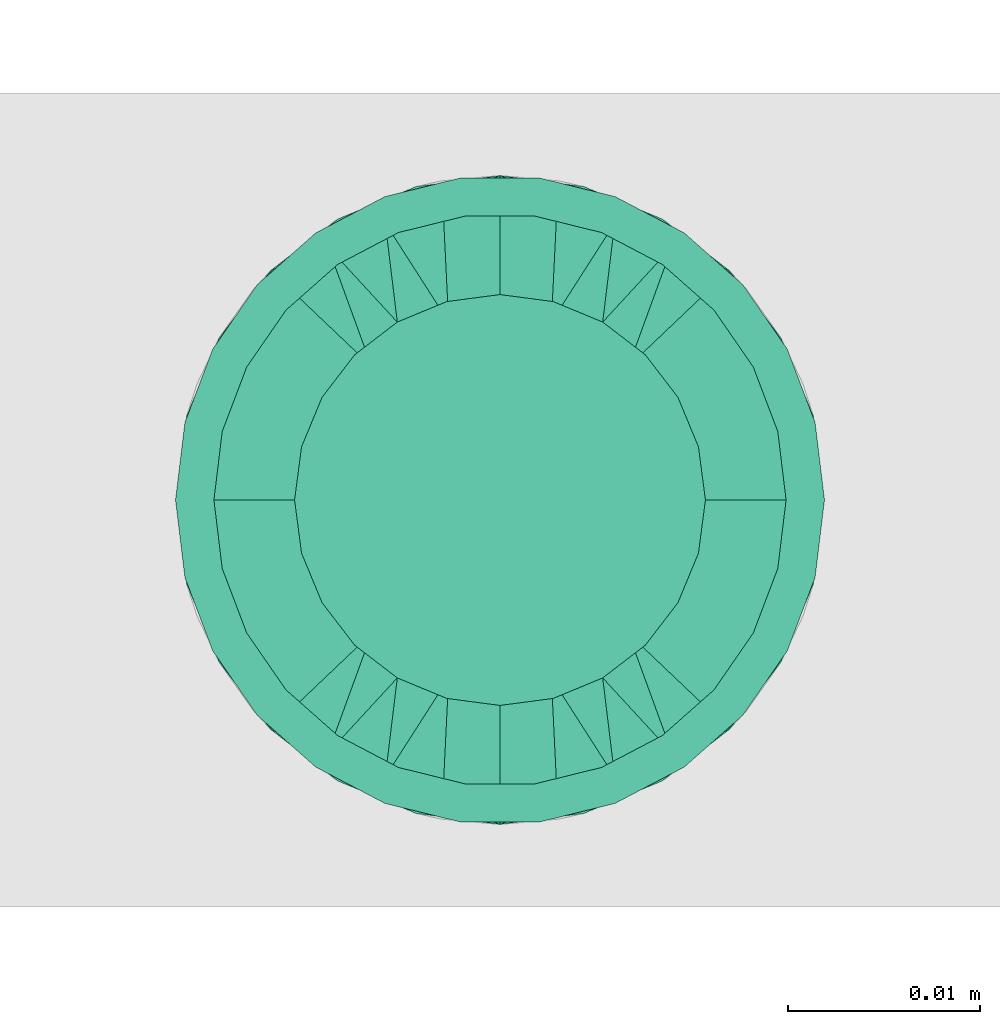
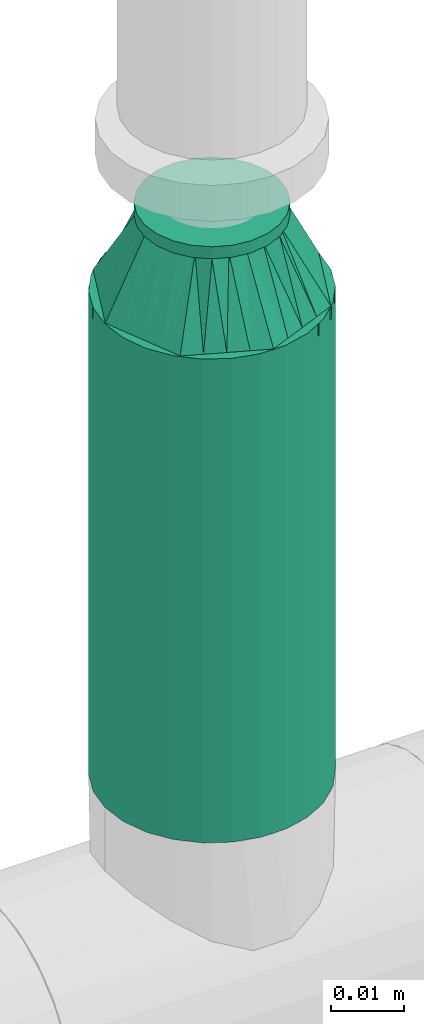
# One storey, part 54 of 94: 1 flow fitting, 1 flow segment.
"""IFC2X3 building model written with IfcOpenShell, lengths in millimetres."""

from ifc_helpers import new_model, entity, si_unit, converted_unit, derived_unit, direction, frame, origin_with_axes, origin_2d_with_axis, place, context, subcontext, project, spatial, hollow_circle, extrude, open_shell, surface_model, source, transform, mapped, type_object, element, save


model = new_model("IFC2X3")

# Units and contexts
model_context = context("Model", 3, precision=0.01, world=frame((0.0, 4.29681676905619e-09, 0.0)), true_north=direction((4.01073788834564e-13, 1.0)))
plan_context = context("Plan", 3, precision=0.01, world=frame((0.0, 4.29681676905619e-09, 0.0)), true_north=direction((4.01073788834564e-13, 1.0)))
body_context = subcontext(model_context, "Body", "Model", "MODEL_VIEW")
ifc_project = project(units=[converted_unit("PLANEANGLEUNIT", "DEGREE", entity("IfcPositiveLengthMeasure", 0.0174532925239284), si_unit("PLANEANGLEUNIT", "RADIAN"), dimensions=[0, 0, 0, 0, 0, 0, 0]), si_unit("AREAUNIT", "SQUARE_METRE"), si_unit("LENGTHUNIT", "METRE", prefix="MILLI"), si_unit("MASSUNIT", "GRAM", prefix="KILO"), si_unit("POWERUNIT", "WATT"), si_unit("PRESSUREUNIT", "PASCAL"), si_unit("FORCEUNIT", "NEWTON", prefix="KILO"), si_unit("ELECTRICCURRENTUNIT", "AMPERE"), si_unit("THERMODYNAMICTEMPERATUREUNIT", "DEGREE_CELSIUS"), si_unit("TIMEUNIT", "SECOND"), si_unit("VOLUMEUNIT", "CUBIC_METRE"), derived_unit("LINEARVELOCITYUNIT", [(si_unit("LENGTHUNIT", "METRE"), 1), (si_unit("TIMEUNIT", "SECOND"), -1)]), derived_unit("VOLUMETRICFLOWRATEUNIT", [(si_unit("VOLUMEUNIT", "CUBIC_METRE"), 1), (si_unit("TIMEUNIT", "SECOND"), -1)]), derived_unit("THERMALTRANSMITTANCEUNIT", [(si_unit("POWERUNIT", "WATT"), 1), (si_unit("THERMODYNAMICTEMPERATUREUNIT", "KELVIN"), -1), (si_unit("AREAUNIT", "SQUARE_METRE"), -1)])], contexts=[model_context, plan_context])

# Site, building, storey
site_placement = place(None, frame((0.0, -4.29681676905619e-09, 0.0), z_axis=(0.0, 0.0, 1.0), x_axis=(1.0, 0.0, 0.0)))
site = spatial("IfcSite", under=ifc_project, at=site_placement, CompositionType="ELEMENT")
building_placement = place(site_placement, frame((0.0, 4.29681676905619e-09, 0.0), z_axis=(0.0, 0.0, 1.0), x_axis=(1.0, 0.0, 0.0)))
building = spatial("IfcBuilding", under=site, at=building_placement, Name="mc-building", CompositionType="ELEMENT")
storey_placement = place(building_placement, frame((0.0, 0.0, 200300.0), z_axis=(0.0, 0.0, 1.0), x_axis=(1.0, 0.0, 0.0)))
storey = spatial("IfcBuildingStorey", under=building, at=storey_placement, Name="Nivå C", CompositionType="ELEMENT", Elevation=200300.0)

# Flow fitting
pipe_fitting_type = type_object("IfcPipeFittingType", Name="magi_pipe_fe_reducer_centric_short_NOR", PredefinedType="TRANSITION")
shared_shape_1 = source(origin_with_axes(), body_context, "Body", "SurfaceModel", [
    surface_model("IfcShellBasedSurfaceModel", [(14.4, 5.35, -9.26647), (14.4, 0.0, -10.7), (14.4, 2.76936, -10.33541), (14.4, 10.33541, -2.76936), (14.4, 7.56604, -7.56604), (14.4, -10.33541, -2.76936), (14.4, 9.26647, -5.35), (14.4, 0.0, 10.7), (14.4, -5.35, -9.26647), (14.4, -2.76936, -10.33541), (14.4, -7.56604, -7.56604), (14.4, -9.26647, -5.35), (14.4, 10.7, 0.0), (14.4, 10.33541, 2.76936), (14.4, 9.26647, 5.35), (14.4, 7.56604, 7.56604), (14.4, 2.76936, 10.33541), (14.4, 5.35, 9.26647), (14.4, -10.33541, 2.76936), (14.4, -7.56604, 7.56604), (14.4, -9.26647, 5.35), (14.4, -10.7, 0.0), (14.4, -2.76936, 10.33541), (14.4, -5.35, 9.26647), (12.4, 2.76936, 10.33541), (12.4, -10.33541, -2.76936), (12.4, 0.0, 10.7), (12.4, 5.35, 9.26647), (12.4, 7.56604, 7.56604), (12.4, 9.26647, 5.35), (12.4, 10.33541, 2.76936), (12.4, -10.33541, 2.76936), (12.4, -2.76936, 10.33541), (12.4, -7.56604, 7.56604), (12.4, -5.35, 9.26647), (12.4, -9.26647, 5.35), (12.4, -10.7, 0.0), (12.4, 10.33541, -2.76936), (12.4, 5.35, -9.26647), (12.4, 9.26647, -5.35), (12.4, 7.56604, -7.56604), (12.4, 2.76936, -10.33541), (12.4, -9.26647, -5.35), (12.4, -5.35, -9.26647), (12.4, -7.56604, -7.56604), (12.4, 0.0, -10.7), (12.4, -2.76936, -10.33541), (12.4, 10.7, 0.0), (-2.0, 11.9501, 11.9501), (-2.0, 0.0, 16.9), (-2.0, 4.37404, 16.32415), (-2.0, 8.45, 14.63583), (-2.0, 14.63583, 8.45), (-2.0, 16.32415, 4.37404), (-2.0, -16.32415, 4.37404), (-2.0, -8.45, 14.63583), (-2.0, -14.63583, 8.45), (-2.0, -11.9501, 11.9501), (-2.0, -4.37404, 16.32415), (-2.0, -16.32415, -4.37404), (-2.0, -16.9, 0.0), (-2.0, -8.45, -14.63583), (-2.0, 16.32415, -4.37404), (-2.0, 11.9501, -11.9501), (-2.0, 14.63583, -8.45), (-2.0, 8.45, -14.63583), (-2.0, 4.37404, -16.32415), (-2.0, 0.0, -16.9), (-2.0, -11.9501, -11.9501), (-2.0, -14.63583, -8.45), (-2.0, -4.37404, -16.32415), (-2.0, 16.9, 0.0), (0.0, 4.37404, -16.32415), (0.0, 8.45, -14.63583), (0.0, 11.9501, -11.9501), (0.0, 0.0, -16.9), (0.0, 16.32415, -4.37404), (0.0, 16.32415, 4.37404), (0.0, 14.63583, -8.45), (0.0, -8.45, -14.63583), (0.0, -4.37404, -16.32415), (0.0, -11.9501, -11.9501), (0.0, -16.32415, -4.37404), (0.0, -14.63583, -8.45), (0.0, -16.32415, 4.37404), (0.0, 16.9, 0.0), (0.0, 14.63583, 8.45), (0.0, 11.9501, 11.9501), (0.0, 4.37404, 16.32415), (0.0, 8.45, 14.63583), (0.0, 0.0, 16.9), (0.0, -14.63583, 8.45), (0.0, -16.9, 0.0), (0.0, -8.45, 14.63583), (0.0, -11.9501, 11.9501), (0.0, -4.37404, 16.32415), (12.4, 9.3625, -2.31662), (0.0, 14.42505, -5.97505), (0.0, 15.66253, -2.98753), (12.4, -6.6875, -6.94985), (0.0, -13.18758, -8.96258), (0.0, 2.98753, -15.66253), (12.4, 0.0, -9.26647), (12.4, 6.6875, -6.94985), (0.0, 8.96258, -13.18758), (12.4, -9.3625, -2.31662), (0.0, -15.66253, -2.98753), (0.0, -14.42505, -5.97505), (0.0, 5.97505, -14.42505), (0.0, -2.98753, -15.66253), (0.0, -8.96258, -13.18758), (0.0, 13.18758, -8.96258), (12.4, 8.025, -4.63324), (12.4, -2.675, -9.26647), (12.4, 2.675, -9.26647), (0.0, -5.97505, -14.42505), (12.4, -8.025, -4.63324), (12.4, -9.3625, 2.31662), (0.0, -14.42505, 5.97505), (0.0, -15.66253, 2.98753), (12.4, 6.6875, 6.94985), (0.0, 13.18758, 8.96258), (0.0, -2.98753, 15.66253), (12.4, 0.0, 9.26647), (12.4, -6.6875, 6.94985), (0.0, -8.96258, 13.18758), (12.4, 9.3625, 2.31662), (0.0, 15.66253, 2.98753), (0.0, 14.42505, 5.97505), (0.0, -5.97505, 14.42505), (0.0, 2.98753, 15.66253), (0.0, 8.96258, 13.18758), (0.0, -13.18758, 8.96258), (12.4, -8.025, 4.63324), (12.4, 2.675, 9.26647), (12.4, -2.675, 9.26647), (0.0, 5.97505, 14.42505), (12.4, 8.025, 4.63324)], [open_shell([[[0, 1, 2]], [[3, 0, 4]], [[5, 0, 3]], [[3, 4, 6]], [[7, 5, 3]], [[1, 8, 9]], [[1, 0, 8]], [[10, 5, 11]], [[5, 10, 8]], [[0, 5, 8]], [[3, 12, 13]], [[13, 14, 15]], [[13, 15, 16]], [[7, 3, 16]], [[16, 15, 17]], [[7, 18, 5]], [[18, 19, 20]], [[21, 5, 18]], [[19, 22, 23]], [[22, 19, 18]], [[7, 22, 18]], [[13, 16, 3]], [[24, 25, 26]], [[27, 25, 24]], [[28, 29, 30]], [[28, 25, 27]], [[31, 26, 25]], [[32, 33, 34]], [[33, 32, 31]], [[33, 31, 35]], [[32, 26, 31]], [[31, 25, 36]], [[30, 37, 28]], [[25, 28, 37]], [[38, 37, 39]], [[37, 38, 25]], [[38, 39, 40]], [[41, 25, 38]], [[42, 43, 44]], [[43, 42, 25]], [[43, 45, 46]], [[43, 25, 41]], [[41, 45, 43]], [[37, 30, 47]], [[25, 5, 36]], [[42, 11, 25]], [[8, 44, 43]], [[42, 44, 10]], [[9, 43, 46]], [[25, 11, 5]], [[5, 21, 36]], [[9, 8, 43]], [[10, 44, 8]], [[10, 11, 42]], [[1, 9, 46]], [[46, 45, 1]], [[41, 2, 45]], [[38, 0, 41]], [[6, 40, 39]], [[38, 40, 4]], [[3, 39, 37]], [[38, 4, 0]], [[0, 2, 41]], [[12, 3, 37]], [[6, 39, 3]], [[6, 4, 40]], [[47, 12, 37]], [[45, 2, 1]], [[30, 13, 47]], [[29, 14, 30]], [[17, 28, 27]], [[29, 28, 15]], [[16, 27, 24]], [[30, 14, 13]], [[13, 12, 47]], [[16, 17, 27]], [[15, 28, 17]], [[15, 14, 29]], [[7, 16, 24]], [[24, 26, 7]], [[32, 22, 26]], [[34, 23, 32]], [[20, 33, 35]], [[34, 33, 19]], [[18, 35, 31]], [[34, 19, 23]], [[23, 22, 32]], [[21, 18, 31]], [[20, 35, 18]], [[20, 19, 33]], [[36, 21, 31]], [[26, 22, 7]], [[48, 49, 50]], [[48, 50, 51]], [[48, 52, 53]], [[48, 53, 49]], [[49, 53, 54]], [[55, 56, 57]], [[55, 58, 49]], [[56, 55, 49]], [[49, 54, 56]], [[54, 59, 60]], [[54, 53, 61]], [[53, 62, 63]], [[63, 62, 64]], [[63, 65, 66]], [[61, 53, 63]], [[67, 63, 66]], [[59, 68, 69]], [[68, 59, 61]], [[61, 67, 70]], [[59, 54, 61]], [[63, 67, 61]], [[53, 71, 62]], [[72, 73, 74]], [[75, 72, 74]], [[74, 76, 77]], [[76, 74, 78]], [[74, 77, 79]], [[75, 79, 80]], [[75, 74, 79]], [[81, 82, 83]], [[82, 81, 79]], [[79, 84, 82]], [[77, 76, 85]], [[77, 86, 87]], [[77, 87, 88]], [[88, 84, 79]], [[88, 87, 89]], [[84, 88, 90]], [[90, 91, 84]], [[92, 82, 84]], [[91, 93, 94]], [[91, 90, 93]], [[93, 90, 95]], [[79, 77, 88]], [[59, 82, 60]], [[69, 83, 59]], [[79, 68, 61]], [[69, 68, 81]], [[80, 61, 70]], [[59, 83, 82]], [[82, 92, 60]], [[80, 79, 61]], [[81, 68, 79]], [[81, 83, 69]], [[75, 80, 70]], [[70, 67, 75]], [[66, 72, 67]], [[65, 73, 66]], [[78, 63, 64]], [[65, 63, 74]], [[76, 64, 62]], [[65, 74, 73]], [[73, 72, 66]], [[85, 76, 62]], [[78, 64, 76]], [[78, 74, 63]], [[71, 85, 62]], [[67, 72, 75]], [[53, 77, 71]], [[52, 86, 53]], [[89, 48, 51]], [[52, 48, 87]], [[88, 51, 50]], [[53, 86, 77]], [[77, 85, 71]], [[88, 89, 51]], [[87, 48, 89]], [[87, 86, 52]], [[90, 88, 50]], [[50, 49, 90]], [[58, 95, 49]], [[55, 93, 58]], [[91, 57, 56]], [[55, 57, 94]], [[84, 56, 54]], [[55, 94, 93]], [[93, 95, 58]], [[92, 84, 54]], [[91, 56, 84]], [[91, 94, 57]], [[60, 92, 54]], [[49, 95, 90]], [[27, 34, 47]], [[47, 34, 43]], [[43, 38, 47]], [[43, 34, 36]], [[90, 87, 94]], [[92, 94, 87]], [[87, 74, 92]], [[75, 92, 74]], [[81, 92, 75]], [[74, 87, 85]], [[96, 97, 98]], [[81, 99, 100]], [[101, 102, 75]], [[98, 85, 47]], [[74, 103, 104]], [[104, 103, 38]], [[105, 106, 107]], [[38, 108, 104]], [[102, 109, 75]], [[110, 99, 81]], [[47, 96, 98]], [[103, 111, 112]], [[109, 102, 113]], [[36, 92, 106]], [[102, 101, 114]], [[110, 115, 43]], [[96, 112, 97]], [[107, 116, 105]], [[36, 106, 105]], [[113, 115, 109]], [[43, 115, 113]], [[116, 107, 100]], [[108, 38, 114]], [[111, 103, 74]], [[111, 97, 112]], [[99, 110, 43]], [[116, 100, 99]], [[101, 108, 114]], [[117, 118, 119]], [[87, 120, 121]], [[122, 123, 90]], [[119, 92, 36]], [[94, 124, 125]], [[125, 124, 34]], [[126, 127, 128]], [[34, 129, 125]], [[123, 130, 90]], [[131, 120, 87]], [[36, 117, 119]], [[124, 132, 133]], [[130, 123, 134]], [[47, 85, 127]], [[123, 122, 135]], [[131, 136, 27]], [[117, 133, 118]], [[128, 137, 126]], [[47, 127, 126]], [[134, 136, 130]], [[27, 136, 134]], [[137, 128, 121]], [[129, 34, 135]], [[132, 124, 94]], [[132, 118, 133]], [[120, 131, 27]], [[137, 121, 120]], [[122, 129, 135]]])]),
])
flow_fitting_placement = place(storey_placement, frame((524498.67937, 410500.1625, 2962.64799999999), z_axis=(0.0, -1.0, 0.0), x_axis=(0.0, 0.0, 1.0)))
element("IfcFlowFitting", 1, at=flow_fitting_placement, inside=storey, type_object=pipe_fitting_type, Name="magi_pipe_fe_reducer_centric_short_NOR", context=body_context, shape_type="MappedRepresentation", body=[
    mapped(shared_shape_1, transform((0.0, 0.0, 0.0), scale=1.0)),
])

# Flow segment
pipe_segment_type = type_object("IfcPipeSegmentType", Name="Stålrør normaltykke", PredefinedType="RIGIDSEGMENT")
shared_shape_2 = source(origin_with_axes(), body_context, "Body", "SweptSolid", [
    extrude(hollow_circle(Radius=16.9, WallThickness=2.0, at=origin_2d_with_axis()), frame((0.0, 0.0, 0.0), z_axis=(1.0, 0.0, 0.0), x_axis=(0.0, 1.0, 0.0)), (0.0, 0.0, 1.0), 80.8),
])
flow_segment_placement = place(storey_placement, frame((524498.67937, 410500.1625, 2881.79999999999), z_axis=(0.0, -1.0, 0.0), x_axis=(0.0, 0.0, 1.0)))
element("IfcFlowSegment", 2, at=flow_segment_placement, inside=storey, type_object=pipe_segment_type, Name="Stålrør normaltykke", context=body_context, shape_type="MappedRepresentation", body=[
    mapped(shared_shape_2, transform((0.0, 0.0, 0.0), scale=1.0)),
])

save(model, "model.ifc")
